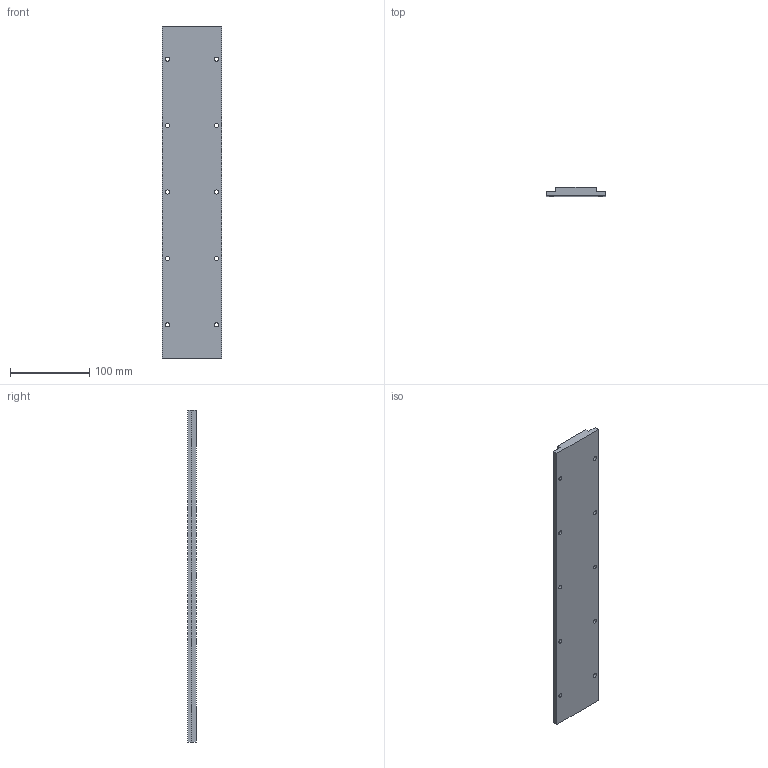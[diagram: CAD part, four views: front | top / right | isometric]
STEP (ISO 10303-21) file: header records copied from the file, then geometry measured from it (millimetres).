
FILE_DESCRIPTION (( 'STEP AP214' ), '1' );
FILE_NAME ('TLM-75-L420.STEP', '2022-05-12T08:03:54', ( 'Microsoft' ), ( 'Microsoft' ), 'SwSTEP 2.0', 'SolidWorks 2016', '' );
FILE_SCHEMA (( 'AUTOMOTIVE_DESIGN' ));
Length unit declared in the file: millimetre
Products named in the file (1): TLM-75-L420
Bounding box: 75 x 10.8 x 420 mm (x, y, z)
Volume: 290064.4 mm3; surface area: 74253.8 mm2
Topology: 1 solids, 1 shells, 60 faces, 144 edges, 96 vertices
Faces by surface type: cylinder 40, plane 20
Entity records: 1862 total; most frequent: DIRECTION 346, CARTESIAN_POINT 301, ORIENTED_EDGE 288, EDGE_CURVE 144, AXIS2_PLACEMENT_3D 141, VERTEX_POINT 96, EDGE_LOOP 90, CIRCLE 80
